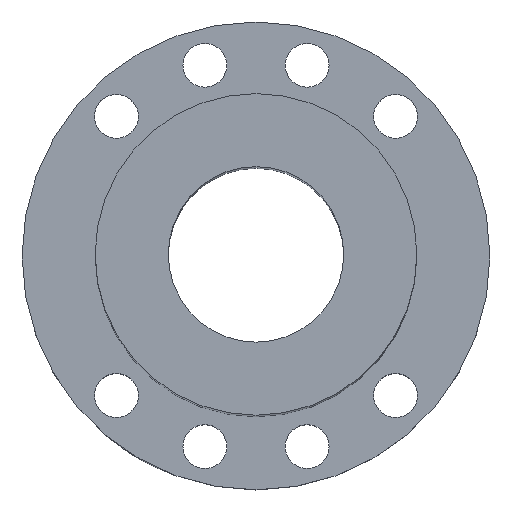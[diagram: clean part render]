
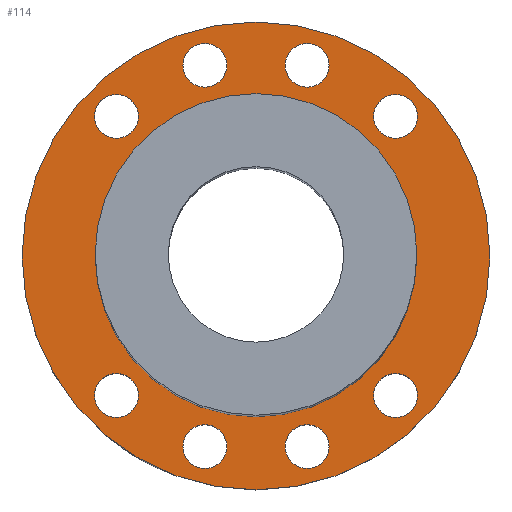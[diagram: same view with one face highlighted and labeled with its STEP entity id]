
A CAD part, top view. The second image highlights one B-rep face of the part: STEP entity #114.
In plain terms, the highlighted planar face has unit normal (0, 0, 1).
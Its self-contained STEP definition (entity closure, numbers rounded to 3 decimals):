
#99=PLANE('',#401);
#114=ADVANCED_FACE('',(#169,#170,#171,#172,#173,#174,#175,#176,#177,#178),
#99,.T.);
#169=FACE_BOUND('',#221,.T.);
#170=FACE_BOUND('',#222,.T.);
#171=FACE_BOUND('',#223,.T.);
#172=FACE_BOUND('',#224,.T.);
#173=FACE_BOUND('',#225,.T.);
#174=FACE_BOUND('',#226,.T.);
#175=FACE_BOUND('',#227,.T.);
#176=FACE_BOUND('',#228,.T.);
#177=FACE_BOUND('',#229,.T.);
#178=FACE_BOUND('',#230,.T.);
#221=EDGE_LOOP('',(#273));
#222=EDGE_LOOP('',(#274));
#223=EDGE_LOOP('',(#275));
#224=EDGE_LOOP('',(#276));
#225=EDGE_LOOP('',(#277));
#226=EDGE_LOOP('',(#278));
#227=EDGE_LOOP('',(#279));
#228=EDGE_LOOP('',(#280));
#229=EDGE_LOOP('',(#281));
#230=EDGE_LOOP('',(#282));
#273=ORIENTED_EDGE('',*,*,#316,.T.);
#274=ORIENTED_EDGE('',*,*,#337,.T.);
#275=ORIENTED_EDGE('',*,*,#336,.T.);
#276=ORIENTED_EDGE('',*,*,#335,.F.);
#277=ORIENTED_EDGE('',*,*,#334,.F.);
#278=ORIENTED_EDGE('',*,*,#333,.F.);
#279=ORIENTED_EDGE('',*,*,#318,.T.);
#280=ORIENTED_EDGE('',*,*,#332,.T.);
#281=ORIENTED_EDGE('',*,*,#331,.F.);
#282=ORIENTED_EDGE('',*,*,#338,.T.);
#290=VERTEX_POINT('',#495);
#292=VERTEX_POINT('',#557);
#305=VERTEX_POINT('',#644);
#306=VERTEX_POINT('',#647);
#307=VERTEX_POINT('',#650);
#308=VERTEX_POINT('',#653);
#309=VERTEX_POINT('',#656);
#310=VERTEX_POINT('',#659);
#311=VERTEX_POINT('',#662);
#312=VERTEX_POINT('',#665);
#316=EDGE_CURVE('',#290,#290,#342,.T.);
#318=EDGE_CURVE('',#292,#292,#343,.T.);
#331=EDGE_CURVE('',#305,#305,#355,.T.);
#332=EDGE_CURVE('',#306,#306,#356,.T.);
#333=EDGE_CURVE('',#307,#307,#357,.T.);
#334=EDGE_CURVE('',#308,#308,#358,.T.);
#335=EDGE_CURVE('',#309,#309,#359,.T.);
#336=EDGE_CURVE('',#310,#310,#360,.T.);
#337=EDGE_CURVE('',#311,#311,#361,.T.);
#338=EDGE_CURVE('',#312,#312,#362,.T.);
#342=CIRCLE('',#367,48.);
#343=CIRCLE('',#369,33.);
#355=CIRCLE('',#385,4.5);
#356=CIRCLE('',#387,4.5);
#357=CIRCLE('',#389,4.5);
#358=CIRCLE('',#391,4.5);
#359=CIRCLE('',#393,4.5);
#360=CIRCLE('',#395,4.5);
#361=CIRCLE('',#397,4.5);
#362=CIRCLE('',#399,4.5);
#367=AXIS2_PLACEMENT_3D('',#494,#411,#412);
#369=AXIS2_PLACEMENT_3D('',#556,#415,#416);
#385=AXIS2_PLACEMENT_3D('',#643,#447,#448);
#387=AXIS2_PLACEMENT_3D('',#646,#451,#452);
#389=AXIS2_PLACEMENT_3D('',#649,#455,#456);
#391=AXIS2_PLACEMENT_3D('',#652,#459,#460);
#393=AXIS2_PLACEMENT_3D('',#655,#463,#464);
#395=AXIS2_PLACEMENT_3D('',#658,#467,#468);
#397=AXIS2_PLACEMENT_3D('',#661,#471,#472);
#399=AXIS2_PLACEMENT_3D('',#664,#475,#476);
#401=AXIS2_PLACEMENT_3D('',#667,#479,#480);
#411=DIRECTION('',(0.,0.,1.));
#412=DIRECTION('',(1.,0.,0.));
#415=DIRECTION('',(0.,0.,-1.));
#416=DIRECTION('',(1.,0.,0.));
#447=DIRECTION('',(0.,0.,1.));
#448=DIRECTION('',(-1.,0.,0.));
#451=DIRECTION('',(0.,0.,-1.));
#452=DIRECTION('',(1.,0.,0.));
#455=DIRECTION('',(0.,0.,1.));
#456=DIRECTION('',(-1.,0.,0.));
#459=DIRECTION('',(0.,0.,1.));
#460=DIRECTION('',(1.,0.,0.));
#463=DIRECTION('',(0.,0.,1.));
#464=DIRECTION('',(1.,0.,0.));
#467=DIRECTION('',(0.,0.,-1.));
#468=DIRECTION('',(-1.,0.,0.));
#471=DIRECTION('',(0.,0.,-1.));
#472=DIRECTION('',(1.,0.,0.));
#475=DIRECTION('',(0.,0.,-1.));
#476=DIRECTION('',(-1.,0.,0.));
#479=DIRECTION('',(0.,0.,1.));
#480=DIRECTION('',(1.,0.,0.));
#494=CARTESIAN_POINT('',(0.,0.,14.));
#495=CARTESIAN_POINT('',(48.,0.,14.));
#556=CARTESIAN_POINT('',(0.,0.,14.));
#557=CARTESIAN_POINT('',(33.,0.,14.));
#643=CARTESIAN_POINT('',(28.638,-28.638,14.));
#644=CARTESIAN_POINT('',(24.138,-28.638,14.));
#646=CARTESIAN_POINT('',(-28.638,-28.638,14.));
#647=CARTESIAN_POINT('',(-24.138,-28.638,14.));
#649=CARTESIAN_POINT('',(10.482,-39.12,14.));
#650=CARTESIAN_POINT('',(5.982,-39.12,14.));
#652=CARTESIAN_POINT('',(-10.482,39.12,14.));
#653=CARTESIAN_POINT('',(-5.982,39.12,14.));
#655=CARTESIAN_POINT('',(-28.638,28.638,14.));
#656=CARTESIAN_POINT('',(-24.138,28.638,14.));
#658=CARTESIAN_POINT('',(28.638,28.638,14.));
#659=CARTESIAN_POINT('',(24.138,28.638,14.));
#661=CARTESIAN_POINT('',(-10.482,-39.12,14.));
#662=CARTESIAN_POINT('',(-5.982,-39.12,14.));
#664=CARTESIAN_POINT('',(10.482,39.12,14.));
#665=CARTESIAN_POINT('',(5.982,39.12,14.));
#667=CARTESIAN_POINT('',(-5.241,-19.56,14.));
